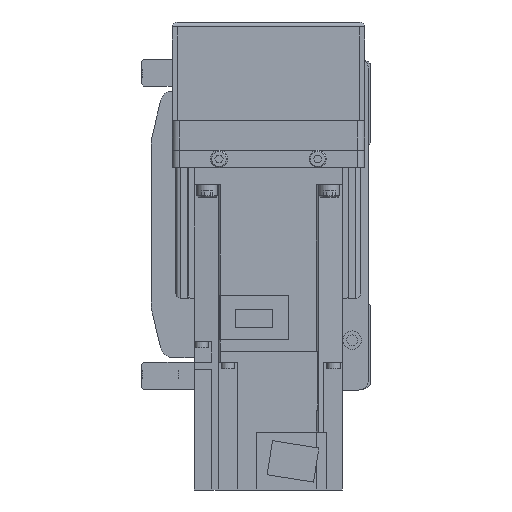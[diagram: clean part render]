
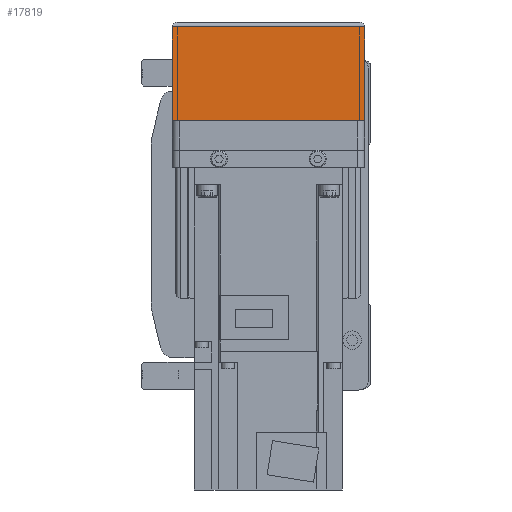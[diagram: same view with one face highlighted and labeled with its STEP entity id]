
A CAD part, left-side view. The second image highlights one B-rep face of the part: STEP entity #17819.
In plain terms, the highlighted planar face has unit normal (-1, 0, 0).
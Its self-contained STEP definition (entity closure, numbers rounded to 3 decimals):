
#2660=ORIENTED_EDGE('',*,*,#7173,.F.);
#2661=ORIENTED_EDGE('',*,*,#7174,.F.);
#2662=ORIENTED_EDGE('',*,*,#7175,.T.);
#2663=ORIENTED_EDGE('',*,*,#7176,.F.);
#7173=EDGE_CURVE('',#9528,#9519,#11369,.T.);
#7174=EDGE_CURVE('',#9545,#9528,#11370,.T.);
#7175=EDGE_CURVE('',#9545,#9546,#11371,.T.);
#7176=EDGE_CURVE('',#9519,#9546,#11372,.T.);
#9519=VERTEX_POINT('',#27360);
#9528=VERTEX_POINT('',#27378);
#9545=VERTEX_POINT('',#27426);
#9546=VERTEX_POINT('',#27428);
#11369=LINE('',#27424,#13009);
#11370=LINE('',#27425,#13010);
#11371=LINE('',#27427,#13011);
#11372=LINE('',#27429,#13012);
#13009=VECTOR('',#21949,1000.);
#13010=VECTOR('',#21950,1000.);
#13011=VECTOR('',#21951,1000.);
#13012=VECTOR('',#21952,1000.);
#14481=EDGE_LOOP('',(#2660,#2661,#2662,#2663));
#15861=FACE_BOUND('',#14481,.T.);
#17082=PLANE('',#19093);
#17819=ADVANCED_FACE('',(#15861),#17082,.F.);
#19093=AXIS2_PLACEMENT_3D('',#27423,#21947,#21948);
#21947=DIRECTION('',(1.,0.,0.));
#21948=DIRECTION('',(0.,0.,-1.));
#21949=DIRECTION('',(0.,-1.,0.));
#21950=DIRECTION('',(0.,0.,1.));
#21951=DIRECTION('',(0.,-1.,0.));
#21952=DIRECTION('',(0.,0.,-1.));
#27360=CARTESIAN_POINT('',(-158.,-39.,-12.1));
#27378=CARTESIAN_POINT('',(-158.,39.,-12.1));
#27423=CARTESIAN_POINT('',(-158.,36.,7.));
#27424=CARTESIAN_POINT('',(-158.,50.,-12.1));
#27425=CARTESIAN_POINT('',(-158.,39.,-50.));
#27426=CARTESIAN_POINT('',(-158.,39.,-50.));
#27427=CARTESIAN_POINT('',(-158.,40.,-50.));
#27428=CARTESIAN_POINT('',(-158.,-39.,-50.));
#27429=CARTESIAN_POINT('',(-158.,-39.,-12.1));
